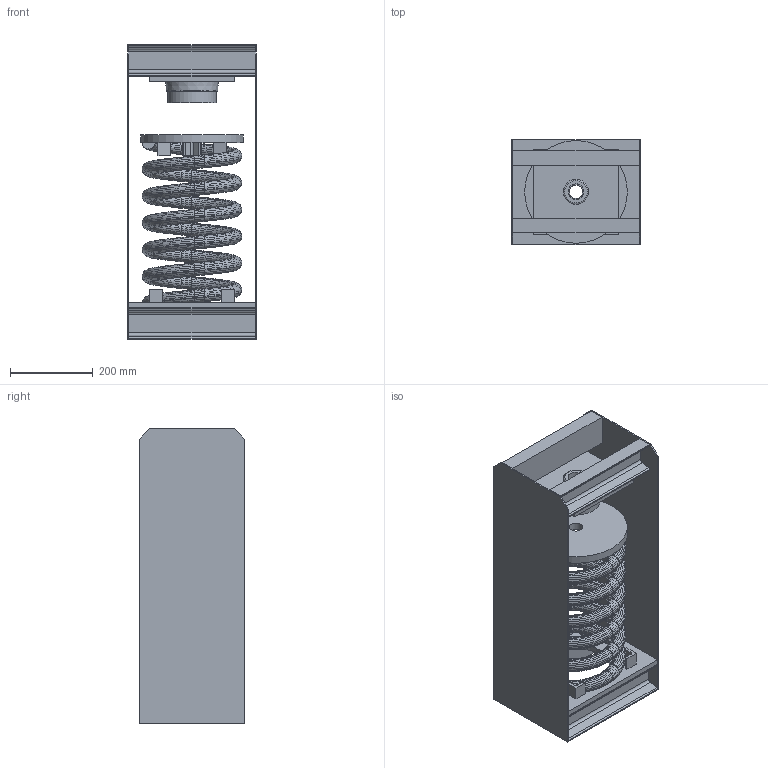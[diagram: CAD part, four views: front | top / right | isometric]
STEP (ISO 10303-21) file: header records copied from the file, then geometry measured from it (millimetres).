
FILE_DESCRIPTION(/* description */ (''),/* implementation_level */ '2;1');
FILE_NAME(/* name */ 'C:\001_Work\Designs\HANGER BOXES\30N 100 SERIES\30N-165, 190-191\30N-191.stp',/* time_stamp */ '2015-06-11T12:08:47-04:00',/* author */ ('rramoutar'),/* organization */ ('Mason Industries Inc.'),/* preprocessor_version */ 'ST-DEVELOPER v15.2',/* originating_system */ 'Autodesk Inventor 2014',/* authorisation */ '');
FILE_SCHEMA (('AUTOMOTIVE_DESIGN { 1 0 10303 214 3 1 1 }'));
Products named in the file (1): 30N-191
Bounding box: 311.15 x 254 x 711.2 mm (x, y, z)
Volume: 5236811.4 mm3; surface area: 2315703 mm2
Topology: 20 solids, 20 shells, 755 faces, 1598 edges, 888 vertices
Faces by surface type: bspline 550, plane 148, cylinder 55, cone 1, torus 1
Full cylindrical faces by diameter (mm): 31.75 x1, 33.337 x1, 38.1 x2, 47.625 x4, 60.325 x1, 107.95 x2, 117.475 x1, 122.237 x2, 165.1 x1, 247.65 x1
Entity records: 41903 total; most frequent: CARTESIAN_POINT 29063, ORIENTED_EDGE 3156, EDGE_CURVE 1578, B_SPLINE_CURVE_WITH_KNOTS 1109, DIRECTION 996, VERTEX_POINT 886, EDGE_LOOP 792, STYLED_ITEM 775
